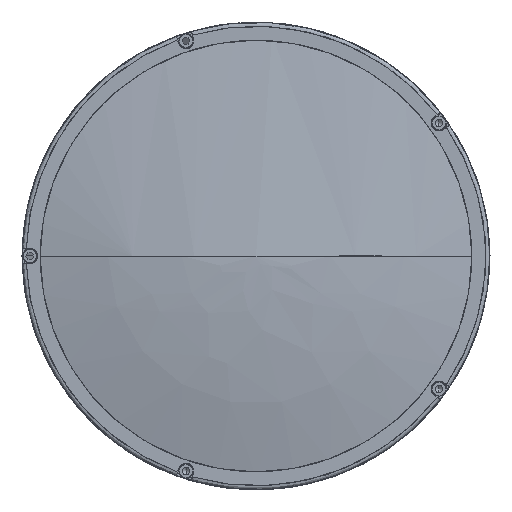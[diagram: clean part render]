
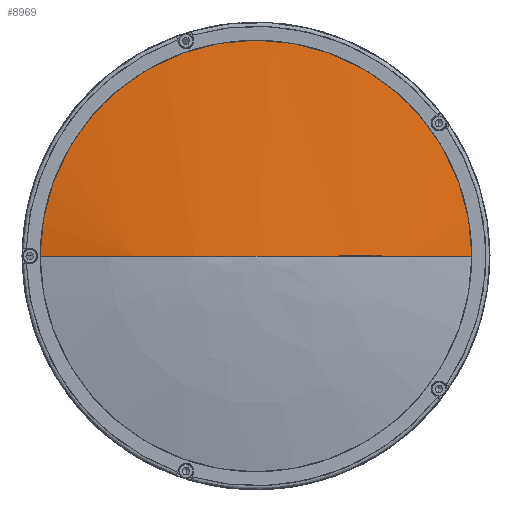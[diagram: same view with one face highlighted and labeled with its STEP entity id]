
A CAD part, left-side view. The second image highlights one B-rep face of the part: STEP entity #8969.
In plain terms, the highlighted face is a revolution surface.
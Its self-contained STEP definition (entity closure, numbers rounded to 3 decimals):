
#8969 = ADVANCED_FACE('',(#8970),#8988,.T.);
#8970 = FACE_BOUND('',#8971,.T.);
#8971 = EDGE_LOOP('',(#8972,#9002,#9021,#9040));
#8972 = ORIENTED_EDGE('',*,*,#8973,.F.);
#8973 = EDGE_CURVE('',#8974,#8976,#8978,.T.);
#8974 = VERTEX_POINT('',#8975);
#8975 = CARTESIAN_POINT('',(-362.63,0.,
    0.));
#8976 = VERTEX_POINT('',#8977);
#8977 = CARTESIAN_POINT('',(-353.104,-85.,
    0.));
#8978 = SURFACE_CURVE('',#8979,(#8987),.PCURVE_S1.);
#8979 = ( BOUNDED_CURVE() B_SPLINE_CURVE(6,(#8980,#8981,#8982,#8983,
#8984,#8985,#8986),.UNSPECIFIED.,.F.,.F.) B_SPLINE_CURVE_WITH_KNOTS((7,7
),(0.,1.),.PIECEWISE_BEZIER_KNOTS.) CURVE() 
GEOMETRIC_REPRESENTATION_ITEM() RATIONAL_B_SPLINE_CURVE((1.001,
    1.,1.,1.,1.,
1.,1.001)) REPRESENTATION_ITEM('') );
#8980 = CARTESIAN_POINT('',(-362.63,0.,
    0.));
#8981 = CARTESIAN_POINT('',(-362.63,-14.291,
    0.));
#8982 = CARTESIAN_POINT('',(-361.992,-28.575,
    0.));
#8983 = CARTESIAN_POINT('',(-360.717,-42.819,
    0.));
#8984 = CARTESIAN_POINT('',(-358.807,-56.993,
    0.));
#8985 = CARTESIAN_POINT('',(-356.268,-71.064,
    0.));
#8986 = CARTESIAN_POINT('',(-353.104,-85.,
    0.));
#8987 = PCURVE('',#8988,#8997);
#8988 = SURFACE_OF_REVOLUTION('',#8989,#8994);
#8989 = CIRCLE('',#8990,384.);
#8990 = AXIS2_PLACEMENT_3D('',#8991,#8992,#8993);
#8991 = CARTESIAN_POINT('',(21.37,0.,
    0.));
#8992 = DIRECTION('',(0.,0.,-1.));
#8993 = DIRECTION('',(1.,0.,0.));
#8994 = AXIS1_PLACEMENT('',#8995,#8996);
#8995 = CARTESIAN_POINT('',(21.37,0.,0.));
#8996 = DIRECTION('',(1.,0.,0.));
#8997 = DEFINITIONAL_REPRESENTATION('',(#8998),#9001);
#8998 = B_SPLINE_CURVE_WITH_KNOTS('',1,(#8999,#9000),.UNSPECIFIED.,.F.,
  .F.,(2,2),(0.,1.),.PIECEWISE_BEZIER_KNOTS.);
#8999 = CARTESIAN_POINT('',(6.283,3.142));
#9000 = CARTESIAN_POINT('',(6.283,2.918));
#9001 = ( GEOMETRIC_REPRESENTATION_CONTEXT(2) 
PARAMETRIC_REPRESENTATION_CONTEXT() REPRESENTATION_CONTEXT('',''
  ) );
#9002 = ORIENTED_EDGE('',*,*,#9003,.F.);
#9003 = EDGE_CURVE('',#9004,#8974,#9006,.T.);
#9004 = VERTEX_POINT('',#9005);
#9005 = CARTESIAN_POINT('',(-362.63,0.,
    0.));
#9006 = SURFACE_CURVE('',#9007,(#9015),.PCURVE_S1.);
#9007 = ( BOUNDED_CURVE() B_SPLINE_CURVE(6,(#9008,#9009,#9010,#9011,
#9012,#9013,#9014),.UNSPECIFIED.,.F.,.F.) B_SPLINE_CURVE_WITH_KNOTS((7,7
),(0.,1.),.PIECEWISE_BEZIER_KNOTS.) CURVE() 
GEOMETRIC_REPRESENTATION_ITEM() RATIONAL_B_SPLINE_CURVE((1.133,
    1.036,0.992,0.976,0.992,
1.036,1.133)) REPRESENTATION_ITEM('') );
#9008 = CARTESIAN_POINT('',(-362.63,0.,
    0.));
#9009 = CARTESIAN_POINT('',(-362.63,0.,
    0.));
#9010 = CARTESIAN_POINT('',(-362.63,0.,
    0.));
#9011 = CARTESIAN_POINT('',(-362.63,0.,
    0.));
#9012 = CARTESIAN_POINT('',(-362.63,0.,0.
    ));
#9013 = CARTESIAN_POINT('',(-362.63,0.,0.
    ));
#9014 = CARTESIAN_POINT('',(-362.63,0.,
    0.));
#9015 = PCURVE('',#8988,#9016);
#9016 = DEFINITIONAL_REPRESENTATION('',(#9017),#9020);
#9017 = B_SPLINE_CURVE_WITH_KNOTS('',1,(#9018,#9019),.UNSPECIFIED.,.F.,
  .F.,(2,2),(0.,1.),.PIECEWISE_BEZIER_KNOTS.);
#9018 = CARTESIAN_POINT('',(3.142,3.142));
#9019 = CARTESIAN_POINT('',(6.283,3.142));
#9020 = ( GEOMETRIC_REPRESENTATION_CONTEXT(2) 
PARAMETRIC_REPRESENTATION_CONTEXT() REPRESENTATION_CONTEXT('',''
  ) );
#9021 = ORIENTED_EDGE('',*,*,#9022,.F.);
#9022 = EDGE_CURVE('',#9023,#9004,#9025,.T.);
#9023 = VERTEX_POINT('',#9024);
#9024 = CARTESIAN_POINT('',(-353.104,85.,
    0.));
#9025 = SURFACE_CURVE('',#9026,(#9034),.PCURVE_S1.);
#9026 = ( BOUNDED_CURVE() B_SPLINE_CURVE(6,(#9027,#9028,#9029,#9030,
#9031,#9032,#9033),.UNSPECIFIED.,.F.,.F.) B_SPLINE_CURVE_WITH_KNOTS((7,7
),(0.,1.),.PIECEWISE_BEZIER_KNOTS.) CURVE() 
GEOMETRIC_REPRESENTATION_ITEM() RATIONAL_B_SPLINE_CURVE((1.001,
    1.,1.,1.,1.,
1.,1.001)) REPRESENTATION_ITEM('') );
#9027 = CARTESIAN_POINT('',(-353.104,85.,
    0.));
#9028 = CARTESIAN_POINT('',(-356.268,71.064,
    0.));
#9029 = CARTESIAN_POINT('',(-358.807,56.993,
    0.));
#9030 = CARTESIAN_POINT('',(-360.717,42.819,
    0.));
#9031 = CARTESIAN_POINT('',(-361.992,28.575,
    0.));
#9032 = CARTESIAN_POINT('',(-362.63,14.291,
    0.));
#9033 = CARTESIAN_POINT('',(-362.63,0.,
    0.));
#9034 = PCURVE('',#8988,#9035);
#9035 = DEFINITIONAL_REPRESENTATION('',(#9036),#9039);
#9036 = B_SPLINE_CURVE_WITH_KNOTS('',1,(#9037,#9038),.UNSPECIFIED.,.F.,
  .F.,(2,2),(0.,1.),.PIECEWISE_BEZIER_KNOTS.);
#9037 = CARTESIAN_POINT('',(3.142,2.918));
#9038 = CARTESIAN_POINT('',(3.142,3.142));
#9039 = ( GEOMETRIC_REPRESENTATION_CONTEXT(2) 
PARAMETRIC_REPRESENTATION_CONTEXT() REPRESENTATION_CONTEXT('',''
  ) );
#9040 = ORIENTED_EDGE('',*,*,#9041,.F.);
#9041 = EDGE_CURVE('',#8976,#9023,#9042,.T.);
#9042 = SURFACE_CURVE('',#9043,(#9055),.PCURVE_S1.);
#9043 = B_SPLINE_CURVE_WITH_KNOTS('',10,(#9044,#9045,#9046,#9047,#9048,
    #9049,#9050,#9051,#9052,#9053,#9054),.UNSPECIFIED.,.F.,.F.,(11,11),(
    0.,1.),.PIECEWISE_BEZIER_KNOTS.);
#9044 = CARTESIAN_POINT('',(-353.104,-85.,
    0.));
#9045 = CARTESIAN_POINT('',(-353.104,-85.,
    26.704));
#9046 = CARTESIAN_POINT('',(-353.104,-75.679,
    53.407));
#9047 = CARTESIAN_POINT('',(-353.104,-57.036,
    76.45));
#9048 = CARTESIAN_POINT('',(-353.104,-30.716,
    92.172));
#9049 = CARTESIAN_POINT('',(-353.104,0.,
    97.774));
#9050 = CARTESIAN_POINT('',(-353.104,30.716,
    92.172));
#9051 = CARTESIAN_POINT('',(-353.104,57.036,
    76.45));
#9052 = CARTESIAN_POINT('',(-353.104,75.679,
    53.407));
#9053 = CARTESIAN_POINT('',(-353.104,85.,
    26.704));
#9054 = CARTESIAN_POINT('',(-353.104,85.,
    0.));
#9055 = PCURVE('',#8988,#9056);
#9056 = DEFINITIONAL_REPRESENTATION('',(#9057),#9060);
#9057 = B_SPLINE_CURVE_WITH_KNOTS('',1,(#9058,#9059),.UNSPECIFIED.,.F.,
  .F.,(2,2),(0.,1.),.PIECEWISE_BEZIER_KNOTS.);
#9058 = CARTESIAN_POINT('',(6.283,2.918));
#9059 = CARTESIAN_POINT('',(3.142,2.918));
#9060 = ( GEOMETRIC_REPRESENTATION_CONTEXT(2) 
PARAMETRIC_REPRESENTATION_CONTEXT() REPRESENTATION_CONTEXT('',''
  ) );
